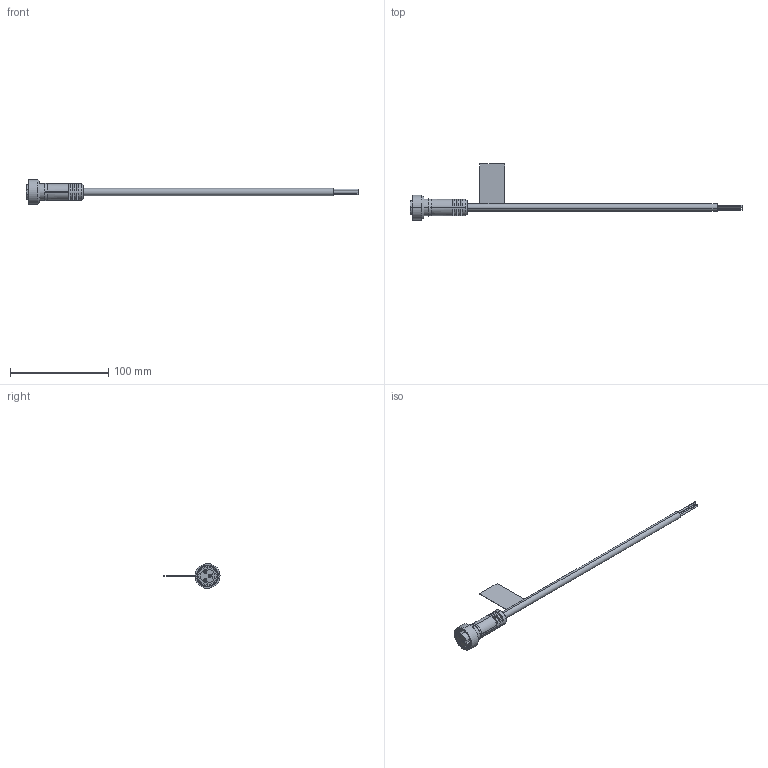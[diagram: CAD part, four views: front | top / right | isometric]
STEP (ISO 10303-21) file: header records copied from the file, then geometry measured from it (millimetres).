
FILE_DESCRIPTION (( 'STEP AP214' ), '1' );
FILE_NAME ('MINE-3FPX-ZZ.STEP', '2006-08-23T20:35:28', ( 'Bruce Mistarz' ), ( 'Mencom Corp' ), 'SwSTEP 2.0', 'SolidWorks 2006104', '' );
FILE_SCHEMA (( 'AUTOMOTIVE_DESIGN' ));
Length unit declared in the file: inch
Products named in the file (1): MINE-3FPX-ZZ
Bounding box: 337.52 x 57.02 x 25.4 mm (x, y, z)
Surface area: 14843.2 mm2 (no closed solid volume)
Topology: 0 solids, 10 shells, 137 faces, 391 edges, 279 vertices
Faces by surface type: plane 78, cylinder 42, cone 13, bspline 4
Entity records: 7816 total; most frequent: CARTESIAN_POINT 2527, DIRECTION 718, ORIENTED_EDGE 658, EDGE_CURVE 391, VERTEX_POINT 279, AXIS2_PLACEMENT_3D 259, VECTOR 200, LINE 200
